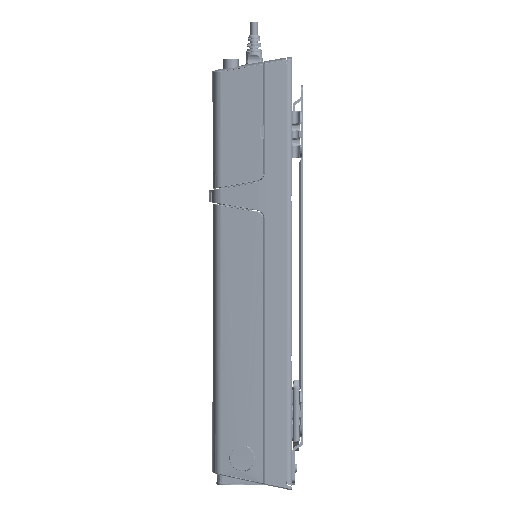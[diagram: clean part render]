
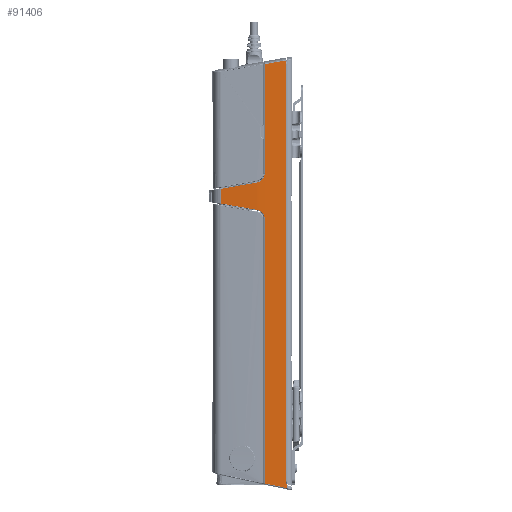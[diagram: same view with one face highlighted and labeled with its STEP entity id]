
A CAD part, left-side view. The second image highlights one B-rep face of the part: STEP entity #91406.
In plain terms, the highlighted cylindrical face has radius 400 mm (diameter 800 mm), a partial arc.
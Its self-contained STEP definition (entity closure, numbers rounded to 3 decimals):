
#25656=DIRECTION('',(0.,0.,1.));
#25657=VECTOR('',#25656,316.759);
#25658=CARTESIAN_POINT('',(-47.975,4.5,-108.128));
#25659=LINE('',#25658,#25657);
#25663=DIRECTION('',(0.,0.,-1.));
#25664=VECTOR('',#25663,2.725);
#25665=CARTESIAN_POINT('',(-47.98,4.04,
-109.695));
#25666=LINE('',#25665,#25664);
#25670=CARTESIAN_POINT('',(-47.473,20.526,
-109.059));
#25671=CARTESIAN_POINT('',(-47.539,19.244,
-109.313));
#25672=CARTESIAN_POINT('',(-47.659,16.663,
-109.828));
#25673=CARTESIAN_POINT('',(-47.799,12.875,
-110.594));
#25674=CARTESIAN_POINT('',(-47.912,8.779,
-111.432));
#25675=CARTESIAN_POINT('',(-47.963,5.673,
-112.078));
#25676=CARTESIAN_POINT('',(-47.98,4.04,
-112.42));
#25681=DIRECTION('',(0.,0.,1.));
#25682=VECTOR('',#25681,198.437);
#25683=CARTESIAN_POINT('',(-47.473,20.526,
-109.059));
#25684=LINE('',#25683,#25682);
#25688=CARTESIAN_POINT('',(-47.473,20.526,
89.378));
#25689=CARTESIAN_POINT('',(-47.473,20.526,
89.619));
#25690=CARTESIAN_POINT('',(-47.472,20.55,
90.097));
#25691=CARTESIAN_POINT('',(-47.466,20.656,
90.803));
#25692=CARTESIAN_POINT('',(-47.457,20.833,
91.499));
#25693=CARTESIAN_POINT('',(-47.444,21.078,
92.172));
#25694=CARTESIAN_POINT('',(-47.428,21.388,
92.817));
#25695=CARTESIAN_POINT('',(-47.408,21.76,
93.428));
#25696=CARTESIAN_POINT('',(-47.384,22.192,
94.));
#25697=CARTESIAN_POINT('',(-47.357,22.678,
94.527));
#25698=CARTESIAN_POINT('',(-47.326,23.214,
95.002));
#25699=CARTESIAN_POINT('',(-47.292,23.797,
95.423));
#25700=CARTESIAN_POINT('',(-47.254,24.417,
95.784));
#25701=CARTESIAN_POINT('',(-47.213,25.077,
96.084));
#25702=CARTESIAN_POINT('',(-47.169,25.771,
96.318));
#25703=CARTESIAN_POINT('',(-47.138,26.243,
96.426));
#25704=CARTESIAN_POINT('',(-47.122,26.483,
96.469));
#25709=CARTESIAN_POINT('',(-47.122,26.483,
96.469));
#25710=CARTESIAN_POINT('',(-46.925,29.455,
96.992));
#25711=CARTESIAN_POINT('',(-46.464,35.399,
98.039));
#25712=CARTESIAN_POINT('',(-45.573,44.298,
99.606));
#25713=CARTESIAN_POINT('',(-44.843,50.243,
100.653));
#25714=CARTESIAN_POINT('',(-44.444,53.215,
101.176));
#25719=DIRECTION('',(0.,0.,-1.));
#25720=VECTOR('',#25719,11.033);
#25721=CARTESIAN_POINT('',(-44.444,53.215,
112.209));
#25722=LINE('',#25721,#25720);
#25726=CARTESIAN_POINT('',(-47.122,26.483,
116.917));
#25727=CARTESIAN_POINT('',(-47.041,27.708,
116.701));
#25728=CARTESIAN_POINT('',(-46.87,30.107,
116.279));
#25729=CARTESIAN_POINT('',(-46.598,33.521,
115.677));
#25730=CARTESIAN_POINT('',(-46.304,36.848,
115.091));
#25731=CARTESIAN_POINT('',(-45.993,40.058,
114.526));
#25732=CARTESIAN_POINT('',(-45.675,43.097,
113.991));
#25733=CARTESIAN_POINT('',(-45.329,46.186,
113.447));
#25734=CARTESIAN_POINT('',(-44.934,49.47,
112.869));
#25735=CARTESIAN_POINT('',(-44.617,51.93,
112.435));
#25736=CARTESIAN_POINT('',(-44.444,53.215,
112.209));
#25741=CARTESIAN_POINT('',(-47.473,20.526,
124.007));
#25742=CARTESIAN_POINT('',(-47.473,20.526,
123.767));
#25743=CARTESIAN_POINT('',(-47.472,20.55,
123.289));
#25744=CARTESIAN_POINT('',(-47.466,20.656,
122.583));
#25745=CARTESIAN_POINT('',(-47.457,20.833,
121.886));
#25746=CARTESIAN_POINT('',(-47.444,21.078,
121.213));
#25747=CARTESIAN_POINT('',(-47.428,21.388,
120.568));
#25748=CARTESIAN_POINT('',(-47.408,21.761,
119.956));
#25749=CARTESIAN_POINT('',(-47.384,22.193,
119.383));
#25750=CARTESIAN_POINT('',(-47.357,22.68,
118.857));
#25751=CARTESIAN_POINT('',(-47.326,23.217,
118.381));
#25752=CARTESIAN_POINT('',(-47.291,23.8,
117.96));
#25753=CARTESIAN_POINT('',(-47.254,24.421,
117.6));
#25754=CARTESIAN_POINT('',(-47.213,25.081,
117.3));
#25755=CARTESIAN_POINT('',(-47.169,25.773,
117.066));
#25756=CARTESIAN_POINT('',(-47.138,26.244,
116.959));
#25757=CARTESIAN_POINT('',(-47.122,26.483,
116.917));
#25762=DIRECTION('',(0.,0.,-1.));
#25763=VECTOR('',#25762,81.823);
#25764=CARTESIAN_POINT('',(-47.473,20.526,
205.83));
#25765=LINE('',#25764,#25763);
#25769=CARTESIAN_POINT('',(-47.975,4.5,
208.631));
#25770=CARTESIAN_POINT('',(-47.957,6.049,
208.359));
#25771=CARTESIAN_POINT('',(-47.902,9.299,
207.789));
#25772=CARTESIAN_POINT('',(-47.75,14.488,
206.882));
#25773=CARTESIAN_POINT('',(-47.58,18.446,
206.192));
#25774=CARTESIAN_POINT('',(-47.473,20.526,
205.83));
#25834=CARTESIAN_POINT('',(-47.975,4.5,
208.631));
#26352=CARTESIAN_POINT('',(-47.98,4.04,
-109.695));
#26353=CARTESIAN_POINT('',(-47.979,4.1,
-109.603));
#26354=CARTESIAN_POINT('',(-47.978,4.208,
-109.411));
#26355=CARTESIAN_POINT('',(-47.976,4.336,
-109.107));
#26356=CARTESIAN_POINT('',(-47.975,4.431,
-108.787));
#26357=CARTESIAN_POINT('',(-47.975,4.488,
-108.458));
#26358=CARTESIAN_POINT('',(-47.975,4.5,-108.238));
#26359=CARTESIAN_POINT('',(-47.975,4.5,-108.128));
#26393=CARTESIAN_POINT('',(-47.98,4.04,
-112.42));
#60774=VERTEX_POINT('',#26393);
#61085=VERTEX_POINT('',#25726);
#61086=VERTEX_POINT('',#25736);
#61119=VERTEX_POINT('',#25741);
#61293=CARTESIAN_POINT('',(-47.473,20.526,
205.83));
#61294=VERTEX_POINT('',#61293);
#61319=VERTEX_POINT('',#25834);
#61484=CARTESIAN_POINT('',(-47.975,4.5,-108.128));
#61486=VERTEX_POINT('',#61484);
#61488=VERTEX_POINT('',#26352);
#61519=CARTESIAN_POINT('',(-44.444,53.215,
101.176));
#61520=VERTEX_POINT('',#61519);
#61551=VERTEX_POINT('',#25670);
#62547=VERTEX_POINT('',#25709);
#62548=VERTEX_POINT('',#25688);
#91376=CARTESIAN_POINT('',(352.,0.,-108.154));
#91377=DIRECTION('',(0.,0.,1.));
#91378=DIRECTION('',(1.,0.,0.));
#91379=AXIS2_PLACEMENT_3D('',#91376,#91377,#91378);
#91380=CYLINDRICAL_SURFACE('',#91379,400.);
#91382=ORIENTED_EDGE('',*,*,#91381,.F.);
#91384=ORIENTED_EDGE('',*,*,#91383,.F.);
#91386=ORIENTED_EDGE('',*,*,#91385,.T.);
#91388=ORIENTED_EDGE('',*,*,#91387,.F.);
#91390=ORIENTED_EDGE('',*,*,#91389,.T.);
#91392=ORIENTED_EDGE('',*,*,#91391,.T.);
#91394=ORIENTED_EDGE('',*,*,#91393,.T.);
#91395=ORIENTED_EDGE('',*,*,#91368,.F.);
#91397=ORIENTED_EDGE('',*,*,#91396,.F.);
#91399=ORIENTED_EDGE('',*,*,#91398,.F.);
#91401=ORIENTED_EDGE('',*,*,#91400,.F.);
#91403=ORIENTED_EDGE('',*,*,#91402,.F.);
#91404=EDGE_LOOP('',(#91382,#91384,#91386,#91388,#91390,#91392,#91394,#91395,
#91397,#91399,#91401,#91403));
#91405=FACE_OUTER_BOUND('',#91404,.F.);
#25677=B_SPLINE_CURVE_WITH_KNOTS('',3,(#25670,#25671,#25672,#25673,#25674,
#25675,#25676),.UNSPECIFIED.,.F.,.F.,(4,1,1,1,4),(0.,0.25,0.5,0.75,
1.),.UNSPECIFIED.);
#25705=B_SPLINE_CURVE_WITH_KNOTS('',3,(#25688,#25689,#25690,#25691,#25692,
#25693,#25694,#25695,#25696,#25697,#25698,#25699,#25700,#25701,#25702,#25703,
#25704),.UNSPECIFIED.,.F.,.F.,(4,1,1,1,1,1,1,1,1,1,1,1,1,1,4),(0.,
0.071,0.143,0.214,0.286,
0.357,0.429,0.5,0.571,0.643,
0.714,0.786,0.857,0.929,1.),
.UNSPECIFIED.);
#25715=B_SPLINE_CURVE_WITH_KNOTS('',3,(#25709,#25710,#25711,#25712,#25713,
#25714),.UNSPECIFIED.,.F.,.F.,(4,1,1,4),(0.,0.333,
0.667,1.),.UNSPECIFIED.);
#25737=B_SPLINE_CURVE_WITH_KNOTS('',3,(#25726,#25727,#25728,#25729,#25730,
#25731,#25732,#25733,#25734,#25735,#25736),.UNSPECIFIED.,.F.,.F.,(4,1,1,1,1,1,1,
1,4),(0.,0.125,0.25,0.375,0.5,0.625,0.75,0.875,1.),
.UNSPECIFIED.);
#25758=B_SPLINE_CURVE_WITH_KNOTS('',3,(#25741,#25742,#25743,#25744,#25745,
#25746,#25747,#25748,#25749,#25750,#25751,#25752,#25753,#25754,#25755,#25756,
#25757),.UNSPECIFIED.,.F.,.F.,(4,1,1,1,1,1,1,1,1,1,1,1,1,1,4),(0.,
0.071,0.143,0.214,0.286,
0.357,0.429,0.5,0.571,0.643,
0.714,0.786,0.857,0.929,1.),
.UNSPECIFIED.);
#25775=B_SPLINE_CURVE_WITH_KNOTS('',3,(#25769,#25770,#25771,#25772,#25773,
#25774),.UNSPECIFIED.,.F.,.F.,(4,1,1,4),(0.,0.333,
0.667,1.),.UNSPECIFIED.);
#26360=B_SPLINE_CURVE_WITH_KNOTS('',3,(#26352,#26353,#26354,#26355,#26356,
#26357,#26358,#26359),.UNSPECIFIED.,.F.,.F.,(4,1,1,1,1,4),(0.,0.2,0.4,
0.6,0.8,1.),.UNSPECIFIED.);
#91368=EDGE_CURVE('',#61086,#61520,#25722,.T.);
#91381=EDGE_CURVE('',#61486,#61319,#25659,.T.);
#91383=EDGE_CURVE('',#61488,#61486,#26360,.T.);
#91385=EDGE_CURVE('',#61488,#60774,#25666,.T.);
#91387=EDGE_CURVE('',#61551,#60774,#25677,.T.);
#91389=EDGE_CURVE('',#61551,#62548,#25684,.T.);
#91391=EDGE_CURVE('',#62548,#62547,#25705,.T.);
#91393=EDGE_CURVE('',#62547,#61520,#25715,.T.);
#91396=EDGE_CURVE('',#61085,#61086,#25737,.T.);
#91398=EDGE_CURVE('',#61119,#61085,#25758,.T.);
#91400=EDGE_CURVE('',#61294,#61119,#25765,.T.);
#91402=EDGE_CURVE('',#61319,#61294,#25775,.T.);
#91406=ADVANCED_FACE('',(#91405),#91380,.T.);
